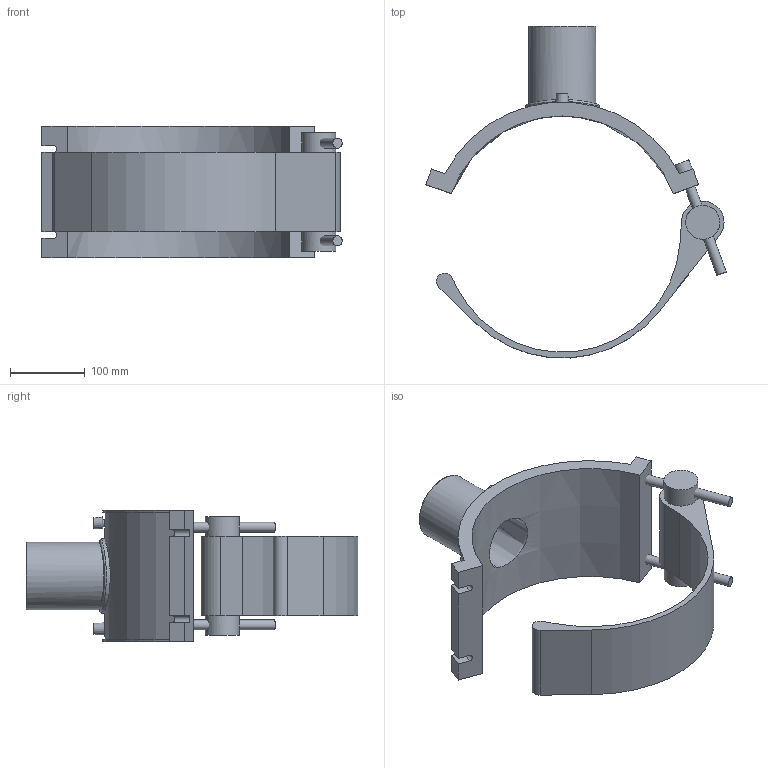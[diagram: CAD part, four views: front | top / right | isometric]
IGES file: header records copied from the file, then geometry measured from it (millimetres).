
Global section: file name: 495804315090.ipt; native system: Autodesk Inventor 2015; preprocessor: unknown; author: KIM; date: 20180426.120914; units: millimetre
Bounding box: 400.4 x 442.53 x 176 mm (x, y, z)
Volume: 2396384.5 mm3; surface area: 386924 mm2
Topology: 5 solids, 5 shells, 65 faces, 135 edges, 91 vertices
Faces by surface type: plane 37, cylinder 17, revolution 7, cone 3, bspline 1
Full cylindrical faces by diameter (mm): 4 x2, 13.23 x2, 22.05 x2, 45.36 x2, 90 x1, 99 x1
